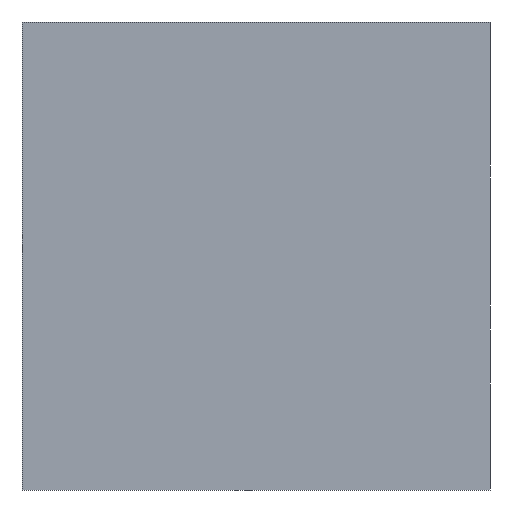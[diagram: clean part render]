
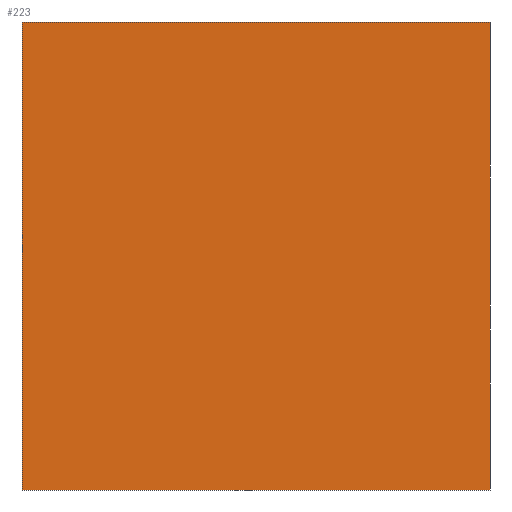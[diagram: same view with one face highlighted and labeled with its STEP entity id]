
A CAD part, front view. The second image highlights one B-rep face of the part: STEP entity #223.
In plain terms, the highlighted planar face has unit normal (0, -1, 0).
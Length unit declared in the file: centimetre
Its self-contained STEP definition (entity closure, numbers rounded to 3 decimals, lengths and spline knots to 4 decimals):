
#8 = VECTOR ( 'NONE', #555, 100. ) ;
#14 = PLANE ( 'NONE',  #18 ) ;
#18 = AXIS2_PLACEMENT_3D ( 'NONE', #455, #192, #154 ) ;
#40 = EDGE_CURVE ( 'NONE', #348, #355, #115, .T. ) ;
#62 = DIRECTION ( 'NONE',  ( 0., 0., -1. ) ) ;
#68 = CARTESIAN_POINT ( 'NONE',  ( 0., 0., 0. ) ) ;
#83 = ORIENTED_EDGE ( 'NONE', *, *, #40, .T. ) ;
#90 = CARTESIAN_POINT ( 'NONE',  ( 0., 0., 0. ) ) ;
#111 = CARTESIAN_POINT ( 'NONE',  ( 0., 0., 1000. ) ) ;
#115 = LINE ( 'NONE', #68, #8 ) ;
#154 = DIRECTION ( 'NONE',  ( 0., 0., 1. ) ) ;
#155 = EDGE_CURVE ( 'NONE', #351, #355, #320, .T. ) ;
#192 = DIRECTION ( 'NONE',  ( 0., 1., 0. ) ) ;
#223 = ADVANCED_FACE ( 'NONE', ( #360 ), #14, .F. ) ;
#240 = LINE ( 'NONE', #442, #279 ) ;
#261 = CARTESIAN_POINT ( 'NONE',  ( 1000., 0., 1000. ) ) ;
#279 = VECTOR ( 'NONE', #402, 100. ) ;
#304 = VECTOR ( 'NONE', #62, 100. ) ;
#305 = ORIENTED_EDGE ( 'NONE', *, *, #155, .F. ) ;
#308 = ORIENTED_EDGE ( 'NONE', *, *, #447, .T. ) ;
#320 = LINE ( 'NONE', #261, #423 ) ;
#333 = CARTESIAN_POINT ( 'NONE',  ( 0., 0., 1000. ) ) ;
#336 = ORIENTED_EDGE ( 'NONE', *, *, #456, .F. ) ;
#348 = VERTEX_POINT ( 'NONE', #90 ) ;
#351 = VERTEX_POINT ( 'NONE', #378 ) ;
#355 = VERTEX_POINT ( 'NONE', #550 ) ;
#360 = FACE_OUTER_BOUND ( 'NONE', #564, .T. ) ;
#378 = CARTESIAN_POINT ( 'NONE',  ( 1000., 0., 1000. ) ) ;
#402 = DIRECTION ( 'NONE',  ( 1., 0., 0. ) ) ;
#423 = VECTOR ( 'NONE', #494, 100. ) ;
#441 = VERTEX_POINT ( 'NONE', #333 ) ;
#442 = CARTESIAN_POINT ( 'NONE',  ( 0., 0., 1000. ) ) ;
#447 = EDGE_CURVE ( 'NONE', #441, #348, #506, .T. ) ;
#455 = CARTESIAN_POINT ( 'NONE',  ( 0., 0., 1000. ) ) ;
#456 = EDGE_CURVE ( 'NONE', #441, #351, #240, .T. ) ;
#494 = DIRECTION ( 'NONE',  ( 0., 0., -1. ) ) ;
#506 = LINE ( 'NONE', #111, #304 ) ;
#550 = CARTESIAN_POINT ( 'NONE',  ( 1000., 0., 0. ) ) ;
#555 = DIRECTION ( 'NONE',  ( 1., 0., 0. ) ) ;
#564 = EDGE_LOOP ( 'NONE', ( #83, #305, #336, #308 ) ) ;
